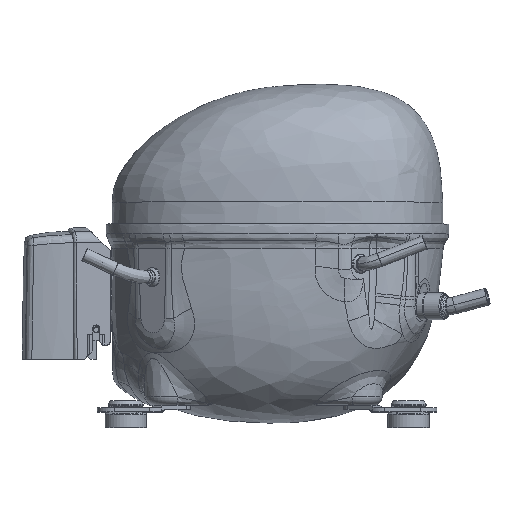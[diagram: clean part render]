
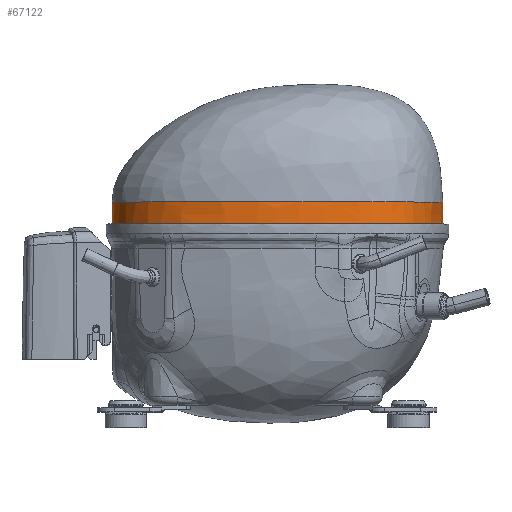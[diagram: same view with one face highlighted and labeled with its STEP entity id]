
A CAD part, top view. The second image highlights one B-rep face of the part: STEP entity #67122.
In plain terms, the highlighted face is a extrusion surface.
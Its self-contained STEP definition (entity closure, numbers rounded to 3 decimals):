
#65076=CARTESIAN_POINT('',(-99.826,-117.5,
0.52));
#65087=CARTESIAN_POINT('',(-99.826,-117.5,
0.52));
#65088=CARTESIAN_POINT('',(-99.782,-117.5,
6.448));
#65089=CARTESIAN_POINT('',(-98.58,-117.509,
18.463));
#65090=CARTESIAN_POINT('',(-94.639,-117.504,
33.083));
#65091=CARTESIAN_POINT('',(-89.649,-117.503,
44.293));
#65092=CARTESIAN_POINT('',(-84.876,-117.502,
52.172));
#65093=CARTESIAN_POINT('',(-79.107,-117.501,
59.433));
#65094=CARTESIAN_POINT('',(-72.038,-117.499,
65.57));
#65095=CARTESIAN_POINT('',(-64.005,-117.497,
70.26));
#65096=CARTESIAN_POINT('',(-52.612,-117.495,
74.857));
#65097=CARTESIAN_POINT('',(-37.713,-117.493,
78.249));
#65098=CARTESIAN_POINT('',(-19.653,-117.491,
80.204));
#65099=CARTESIAN_POINT('',(-1.48,-117.49,
80.588));
#65100=CARTESIAN_POINT('',(16.659,-117.49,
79.154));
#65101=CARTESIAN_POINT('',(34.553,-117.491,
75.978));
#65102=CARTESIAN_POINT('',(52.107,-117.495,
71.038));
#65103=CARTESIAN_POINT('',(68.833,-117.502,
63.247));
#65104=CARTESIAN_POINT('',(80.926,-117.505,
53.567));
#65105=CARTESIAN_POINT('',(88.867,-117.508,
44.09));
#65106=CARTESIAN_POINT('',(93.511,-117.508,
36.029));
#65107=CARTESIAN_POINT('',(96.845,-117.511,
27.357));
#65108=CARTESIAN_POINT('',(98.278,-117.512,
19.689));
#65109=CARTESIAN_POINT('',(98.595,-117.51,
13.544));
#65110=CARTESIAN_POINT('',(98.636,-117.51,
7.676));
#65111=CARTESIAN_POINT('',(98.664,-117.5,
3.354));
#65112=CARTESIAN_POINT('',(98.669,-117.5,
0.52));
#65126=CARTESIAN_POINT('',(98.669,-117.5,
0.52));
#65180=DIRECTION('',(0.,-1.,
0.));
#65181=VECTOR('',#65180,20.464);
#65182=CARTESIAN_POINT('',(98.669,-97.036,0.52));
#65183=LINE('',#65182,#65181);
#65218=DIRECTION('',(0.,-1.,0.));
#65219=VECTOR('',#65218,20.464);
#65220=CARTESIAN_POINT('',(-99.826,-97.036,0.52));
#65221=LINE('',#65220,#65219);
#65222=CARTESIAN_POINT('',(-99.826,-97.036,0.52));
#65223=CARTESIAN_POINT('',(-99.791,-97.036,5.253));
#65224=CARTESIAN_POINT('',(-99.017,-97.036,14.41));
#65225=CARTESIAN_POINT('',(-96.437,-97.036,26.803));
#65226=CARTESIAN_POINT('',(-92.755,-97.036,37.728));
#65227=CARTESIAN_POINT('',(-87.975,-97.036,47.422));
#65228=CARTESIAN_POINT('',(-82.28,-97.036,55.766));
#65229=CARTESIAN_POINT('',(-76.876,-97.036,61.452));
#65230=CARTESIAN_POINT('',(-72.153,-97.036,65.214));
#65231=CARTESIAN_POINT('',(-67.178,-97.036,68.494));
#65232=CARTESIAN_POINT('',(-60.419,-97.036,71.858));
#65233=CARTESIAN_POINT('',(-51.375,-97.036,75.014));
#65234=CARTESIAN_POINT('',(-41.022,-97.036,77.455));
#65235=CARTESIAN_POINT('',(-29.062,-97.036,79.259));
#65236=CARTESIAN_POINT('',(-15.361,-97.036,80.341));
#65237=CARTESIAN_POINT('',(-0.329,-97.036,80.474));
#65238=CARTESIAN_POINT('',(15.717,-97.036,79.215));
#65239=CARTESIAN_POINT('',(31.458,-97.036,76.565));
#65240=CARTESIAN_POINT('',(45.599,-97.036,72.979));
#65241=CARTESIAN_POINT('',(58.026,-97.036,68.396));
#65242=CARTESIAN_POINT('',(68.577,-97.036,62.872));
#65243=CARTESIAN_POINT('',(77.451,-97.036,56.393));
#65244=CARTESIAN_POINT('',(84.906,-97.036,49.128));
#65245=CARTESIAN_POINT('',(89.812,-97.036,42.493));
#65246=CARTESIAN_POINT('',(92.959,-97.036,36.797));
#65247=CARTESIAN_POINT('',(94.916,-97.036,32.376));
#65248=CARTESIAN_POINT('',(96.581,-97.036,27.585));
#65249=CARTESIAN_POINT('',(97.757,-97.036,22.659));
#65250=CARTESIAN_POINT('',(98.392,-97.036,17.315));
#65251=CARTESIAN_POINT('',(98.629,-97.036,11.87));
#65252=CARTESIAN_POINT('',(98.68,-97.036,6.232));
#65253=CARTESIAN_POINT('',(98.668,-97.036,2.444));
#65254=CARTESIAN_POINT('',(98.669,-97.036,0.52));
#65524=VERTEX_POINT('',#65076);
#65527=VERTEX_POINT('',#65126);
#65540=CARTESIAN_POINT('',(-99.826,-97.036,0.52));
#65541=VERTEX_POINT('',#65540);
#65542=CARTESIAN_POINT('',(98.669,-97.036,0.52));
#65543=VERTEX_POINT('',#65542);
#67078=CARTESIAN_POINT('',(-99.826,-97.3,0.52));
#67079=CARTESIAN_POINT('',(-99.791,-97.3,5.253));
#67080=CARTESIAN_POINT('',(-99.017,-97.3,14.41));
#67081=CARTESIAN_POINT('',(-96.437,-97.3,26.803));
#67082=CARTESIAN_POINT('',(-92.755,-97.3,37.728));
#67083=CARTESIAN_POINT('',(-87.975,-97.3,47.422));
#67084=CARTESIAN_POINT('',(-82.28,-97.3,55.766));
#67085=CARTESIAN_POINT('',(-76.876,-97.3,61.452));
#67086=CARTESIAN_POINT('',(-72.153,-97.3,65.214));
#67087=CARTESIAN_POINT('',(-67.178,-97.3,68.494));
#67088=CARTESIAN_POINT('',(-60.419,-97.3,71.858));
#67089=CARTESIAN_POINT('',(-51.375,-97.3,75.014));
#67090=CARTESIAN_POINT('',(-41.022,-97.3,77.455));
#67091=CARTESIAN_POINT('',(-29.062,-97.3,79.259));
#67092=CARTESIAN_POINT('',(-15.361,-97.3,80.341));
#67093=CARTESIAN_POINT('',(-0.329,-97.3,80.474));
#67094=CARTESIAN_POINT('',(15.717,-97.3,79.215));
#67095=CARTESIAN_POINT('',(31.458,-97.3,76.565));
#67096=CARTESIAN_POINT('',(45.599,-97.3,72.979));
#67097=CARTESIAN_POINT('',(58.026,-97.3,68.396));
#67098=CARTESIAN_POINT('',(68.577,-97.3,62.872));
#67099=CARTESIAN_POINT('',(77.451,-97.3,56.393));
#67100=CARTESIAN_POINT('',(84.906,-97.3,49.128));
#67101=CARTESIAN_POINT('',(89.812,-97.3,42.493));
#67102=CARTESIAN_POINT('',(92.959,-97.3,36.797));
#67103=CARTESIAN_POINT('',(94.916,-97.3,32.376));
#67104=CARTESIAN_POINT('',(96.581,-97.3,27.585));
#67105=CARTESIAN_POINT('',(97.757,-97.3,22.659));
#67106=CARTESIAN_POINT('',(98.392,-97.3,17.315));
#67107=CARTESIAN_POINT('',(98.629,-97.3,11.87));
#67108=CARTESIAN_POINT('',(98.68,-97.3,6.232));
#67109=CARTESIAN_POINT('',(98.668,-97.3,2.444));
#67110=CARTESIAN_POINT('',(98.669,-97.3,0.52));
#67112=DIRECTION('',(0.,-1.,0.));
#67113=VECTOR('',#67112,1.);
#67114=SURFACE_OF_LINEAR_EXTRUSION('',#67111,#67113);
#67115=ORIENTED_EDGE('',*,*,#67068,.F.);
#67117=ORIENTED_EDGE('',*,*,#67116,.T.);
#67118=ORIENTED_EDGE('',*,*,#67071,.T.);
#67119=ORIENTED_EDGE('',*,*,#66281,.F.);
#67120=EDGE_LOOP('',(#67115,#67117,#67118,#67119));
#67121=FACE_OUTER_BOUND('',#67120,.F.);
#67122=ADVANCED_FACE('',(#67121),#67114,.F.);
#65113=B_SPLINE_CURVE_WITH_KNOTS('',3,(#65087,#65088,#65089,#65090,#65091,
#65092,#65093,#65094,#65095,#65096,#65097,#65098,#65099,#65100,#65101,#65102,
#65103,#65104,#65105,#65106,#65107,#65108,#65109,#65110,#65111,#65112),
.UNSPECIFIED.,.F.,.F.,(4,1,1,1,1,1,1,1,1,1,1,1,1,1,1,1,1,1,1,1,1,1,1,4),(0.,
0.061,0.124,0.155,0.186,
0.218,0.249,0.28,0.312,
0.375,0.437,0.5,0.563,
0.625,0.688,0.751,0.814,
0.845,0.876,0.908,0.939,
0.955,0.97,1.),.UNSPECIFIED.);
#65255=B_SPLINE_CURVE_WITH_KNOTS('',3,(#65222,#65223,#65224,#65225,#65226,
#65227,#65228,#65229,#65230,#65231,#65232,#65233,#65234,#65235,#65236,#65237,
#65238,#65239,#65240,#65241,#65242,#65243,#65244,#65245,#65246,#65247,#65248,
#65249,#65250,#65251,#65252,#65253,#65254),.UNSPECIFIED.,.F.,.F.,(4,1,1,1,1,1,1,
1,1,1,1,1,1,1,1,1,1,1,1,1,1,1,1,1,1,1,1,1,1,1,4),(0.,0.039,
0.079,0.119,0.159,0.199,
0.239,0.259,0.279,0.32,
0.36,0.4,0.44,0.48,
0.52,0.56,0.6,0.641,
0.681,0.721,0.761,0.801,
0.841,0.86,0.881,0.901,
0.921,0.941,0.962,0.981,1.),
.UNSPECIFIED.);
#66281=EDGE_CURVE('',#65524,#65527,#65113,.T.);
#67068=EDGE_CURVE('',#65541,#65524,#65221,.T.);
#67071=EDGE_CURVE('',#65543,#65527,#65183,.T.);
#67111=B_SPLINE_CURVE_WITH_KNOTS('',3,(#67078,#67079,#67080,#67081,#67082,
#67083,#67084,#67085,#67086,#67087,#67088,#67089,#67090,#67091,#67092,#67093,
#67094,#67095,#67096,#67097,#67098,#67099,#67100,#67101,#67102,#67103,#67104,
#67105,#67106,#67107,#67108,#67109,#67110),.UNSPECIFIED.,.F.,.F.,(4,1,1,1,1,1,1,
1,1,1,1,1,1,1,1,1,1,1,1,1,1,1,1,1,1,1,1,1,1,1,4),(0.,0.039,
0.079,0.119,0.159,0.199,
0.239,0.259,0.279,0.32,
0.36,0.4,0.44,0.48,
0.52,0.56,0.6,0.641,
0.681,0.721,0.761,0.801,
0.841,0.86,0.881,0.901,
0.921,0.941,0.962,0.981,1.),
.UNSPECIFIED.);
#67116=EDGE_CURVE('',#65541,#65543,#65255,.T.);
